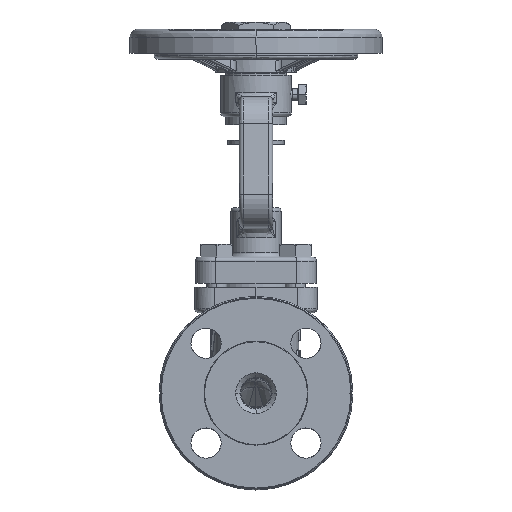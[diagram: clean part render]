
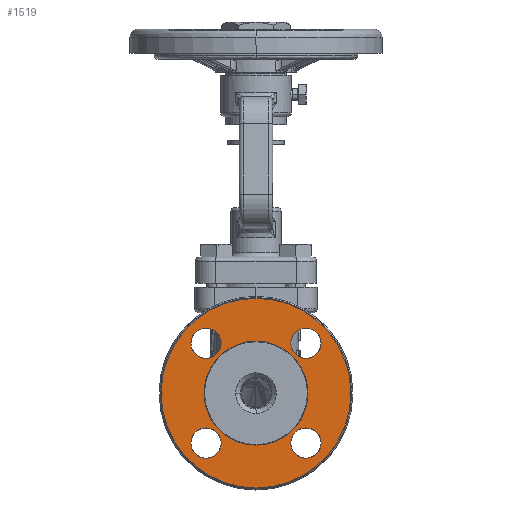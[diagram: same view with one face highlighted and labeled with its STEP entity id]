
A CAD part, left-side view. The second image highlights one B-rep face of the part: STEP entity #1519.
In plain terms, the highlighted planar face has unit normal (-1, 0, 0).
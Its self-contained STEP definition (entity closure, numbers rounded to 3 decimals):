
#1519=ADVANCED_FACE('',(#12683,#12684,#12685,#12686,#12687,#12688),#12682,.F.);
#12682=PLANE('',#33204);
#12683=FACE_OUTER_BOUND('',#33205,.T.);
#12684=FACE_BOUND('',#33206,.T.);
#12685=FACE_BOUND('',#33207,.T.);
#12686=FACE_BOUND('',#33208,.T.);
#12687=FACE_BOUND('',#33209,.T.);
#12688=FACE_BOUND('',#33210,.T.);
#33201=CARTESIAN_POINT('',(-54.,-56.441,56.44));
#33202=DIRECTION('',(1.,0.,0.));
#33203=DIRECTION('',(0.,0.,-1.));
#33204=AXIS2_PLACEMENT_3D('',#33201,#33202,#33203);
#33205=EDGE_LOOP('',(#56343,#56344,#56345,#56346,#56347,#56348));
#33206=EDGE_LOOP('',(#56349,#56350));
#33207=EDGE_LOOP('',(#56351,#56352));
#33208=EDGE_LOOP('',(#56353,#56354));
#33209=EDGE_LOOP('',(#56355,#56356));
#33210=EDGE_LOOP('',(#56357,#56358));
#56343=ORIENTED_EDGE('',*,*,#61950,.F.);
#56344=ORIENTED_EDGE('',*,*,#62454,.T.);
#56345=ORIENTED_EDGE('',*,*,#61940,.F.);
#56346=ORIENTED_EDGE('',*,*,#62455,.F.);
#56347=ORIENTED_EDGE('',*,*,#61944,.T.);
#56348=ORIENTED_EDGE('',*,*,#61954,.F.);
#56349=ORIENTED_EDGE('',*,*,#62456,.T.);
#56350=ORIENTED_EDGE('',*,*,#62457,.T.);
#56351=ORIENTED_EDGE('',*,*,#62458,.T.);
#56352=ORIENTED_EDGE('',*,*,#62459,.T.);
#56353=ORIENTED_EDGE('',*,*,#62460,.T.);
#56354=ORIENTED_EDGE('',*,*,#62461,.T.);
#56355=ORIENTED_EDGE('',*,*,#62462,.F.);
#56356=ORIENTED_EDGE('',*,*,#62463,.F.);
#56357=ORIENTED_EDGE('',*,*,#62464,.T.);
#56358=ORIENTED_EDGE('',*,*,#62465,.T.);
#61940=EDGE_CURVE('',#78803,#78811,#78812,.T.);
#61944=EDGE_CURVE('',#78837,#78838,#78839,.T.);
#61950=EDGE_CURVE('',#78872,#78879,#78880,.T.);
#61954=EDGE_CURVE('',#78879,#78838,#78906,.T.);
#62454=EDGE_CURVE('',#78872,#78811,#82321,.T.);
#62455=EDGE_CURVE('',#78837,#78803,#82327,.T.);
#62456=EDGE_CURVE('',#82333,#82334,#82335,.T.);
#62457=EDGE_CURVE('',#82334,#82333,#82341,.T.);
#62458=EDGE_CURVE('',#82347,#82348,#82349,.T.);
#62459=EDGE_CURVE('',#82348,#82347,#82355,.T.);
#62460=EDGE_CURVE('',#82361,#82362,#82363,.T.);
#62461=EDGE_CURVE('',#82362,#82361,#82369,.T.);
#62462=EDGE_CURVE('',#82375,#82376,#82377,.T.);
#62463=EDGE_CURVE('',#82376,#82375,#82383,.T.);
#62464=EDGE_CURVE('',#82389,#82390,#82391,.T.);
#62465=EDGE_CURVE('',#82390,#82389,#82397,.T.);
#78803=VERTEX_POINT('',#104058);
#78811=VERTEX_POINT('',#104063);
#78812=LINE('',#104064,#104065);
#78837=VERTEX_POINT('',#104091);
#78838=VERTEX_POINT('',#104092);
#78839=CIRCLE('',#104096,47.034);
#78872=VERTEX_POINT('',#104116);
#78879=VERTEX_POINT('',#104121);
#78880=LINE('',#104122,#104123);
#78906=LINE('',#104149,#104150);
#82321=CIRCLE('',#107706,47.034);
#82327=LINE('',#107707,#107708);
#82333=VERTEX_POINT('',#107710);
#82334=VERTEX_POINT('',#107711);
#82335=CIRCLE('',#107715,7.5);
#82341=CIRCLE('',#107719,7.5);
#82347=VERTEX_POINT('',#107720);
#82348=VERTEX_POINT('',#107721);
#82349=CIRCLE('',#107725,7.5);
#82355=CIRCLE('',#107729,7.5);
#82361=VERTEX_POINT('',#107730);
#82362=VERTEX_POINT('',#107731);
#82363=CIRCLE('',#107735,7.5);
#82369=CIRCLE('',#107739,7.5);
#82375=VERTEX_POINT('',#107740);
#82376=VERTEX_POINT('',#107741);
#82377=CIRCLE('',#107745,25.768);
#82383=CIRCLE('',#107749,25.768);
#82389=VERTEX_POINT('',#107750);
#82390=VERTEX_POINT('',#107751);
#82391=CIRCLE('',#107755,7.5);
#82397=CIRCLE('',#107759,7.5);
#104058=CARTESIAN_POINT('',(-54.,0.,46.5));
#104063=CARTESIAN_POINT('',(-54.,-0.308,47.033));
#104064=CARTESIAN_POINT('',(-54.,0.,46.5));
#104065=VECTOR('',#104066,0.616);
#104066=DIRECTION('',(0.,-0.5,0.866));
#104091=CARTESIAN_POINT('',(-54.,0.308,47.033));
#104092=CARTESIAN_POINT('',(-54.,0.308,-47.033));
#104093=CARTESIAN_POINT('',(-54.,0.,0.));
#104094=DIRECTION('',(-1.,0.,0.));
#104095=DIRECTION('',(0.,0.,1.));
#104096=AXIS2_PLACEMENT_3D('',#104093,#104094,#104095);
#104116=CARTESIAN_POINT('',(-54.,-0.308,-47.033));
#104121=CARTESIAN_POINT('',(-54.,0.,-46.5));
#104122=CARTESIAN_POINT('',(-54.,-0.308,-47.033));
#104123=VECTOR('',#104124,0.616);
#104124=DIRECTION('',(0.,0.5,0.866));
#104149=CARTESIAN_POINT('',(-54.,0.,-46.5));
#104150=VECTOR('',#104151,0.616);
#104151=DIRECTION('',(0.,0.5,-0.866));
#107703=CARTESIAN_POINT('',(-54.,0.,0.));
#107704=DIRECTION('',(-1.,0.,0.));
#107705=DIRECTION('',(0.,0.,1.));
#107706=AXIS2_PLACEMENT_3D('',#107703,#107704,#107705);
#107707=CARTESIAN_POINT('',(-54.,0.308,47.033));
#107708=VECTOR('',#107709,0.616);
#107709=DIRECTION('',(0.,-0.5,-0.866));
#107710=CARTESIAN_POINT('',(-54.,24.749,17.249));
#107711=CARTESIAN_POINT('',(-54.,24.749,32.249));
#107712=CARTESIAN_POINT('',(-54.,24.749,24.749));
#107713=DIRECTION('',(1.,0.,0.));
#107714=DIRECTION('',(0.,0.,-1.));
#107715=AXIS2_PLACEMENT_3D('',#107712,#107713,#107714);
#107716=CARTESIAN_POINT('',(-54.,24.749,24.749));
#107717=DIRECTION('',(1.,0.,0.));
#107718=DIRECTION('',(0.,0.,-1.));
#107719=AXIS2_PLACEMENT_3D('',#107716,#107717,#107718);
#107720=CARTESIAN_POINT('',(-54.,24.749,-32.249));
#107721=CARTESIAN_POINT('',(-54.,24.749,-17.249));
#107722=CARTESIAN_POINT('',(-54.,24.749,-24.749));
#107723=DIRECTION('',(1.,0.,0.));
#107724=DIRECTION('',(0.,0.,-1.));
#107725=AXIS2_PLACEMENT_3D('',#107722,#107723,#107724);
#107726=CARTESIAN_POINT('',(-54.,24.749,-24.749));
#107727=DIRECTION('',(1.,0.,0.));
#107728=DIRECTION('',(0.,0.,-1.));
#107729=AXIS2_PLACEMENT_3D('',#107726,#107727,#107728);
#107730=CARTESIAN_POINT('',(-54.,-24.749,-32.249));
#107731=CARTESIAN_POINT('',(-54.,-24.749,-17.249));
#107732=CARTESIAN_POINT('',(-54.,-24.749,-24.749));
#107733=DIRECTION('',(1.,0.,0.));
#107734=DIRECTION('',(0.,0.,-1.));
#107735=AXIS2_PLACEMENT_3D('',#107732,#107733,#107734);
#107736=CARTESIAN_POINT('',(-54.,-24.749,-24.749));
#107737=DIRECTION('',(1.,0.,0.));
#107738=DIRECTION('',(0.,0.,-1.));
#107739=AXIS2_PLACEMENT_3D('',#107736,#107737,#107738);
#107740=CARTESIAN_POINT('',(-54.,0.,-25.768));
#107741=CARTESIAN_POINT('',(-54.,0.,25.768));
#107742=CARTESIAN_POINT('',(-54.,0.,0.));
#107743=DIRECTION('',(-1.,0.,0.));
#107744=DIRECTION('',(0.,0.,1.));
#107745=AXIS2_PLACEMENT_3D('',#107742,#107743,#107744);
#107746=CARTESIAN_POINT('',(-54.,0.,0.));
#107747=DIRECTION('',(-1.,0.,0.));
#107748=DIRECTION('',(0.,0.,1.));
#107749=AXIS2_PLACEMENT_3D('',#107746,#107747,#107748);
#107750=CARTESIAN_POINT('',(-54.,-24.749,17.249));
#107751=CARTESIAN_POINT('',(-54.,-24.749,32.249));
#107752=CARTESIAN_POINT('',(-54.,-24.749,24.749));
#107753=DIRECTION('',(1.,0.,0.));
#107754=DIRECTION('',(0.,0.,-1.));
#107755=AXIS2_PLACEMENT_3D('',#107752,#107753,#107754);
#107756=CARTESIAN_POINT('',(-54.,-24.749,24.749));
#107757=DIRECTION('',(1.,0.,0.));
#107758=DIRECTION('',(0.,0.,-1.));
#107759=AXIS2_PLACEMENT_3D('',#107756,#107757,#107758);
